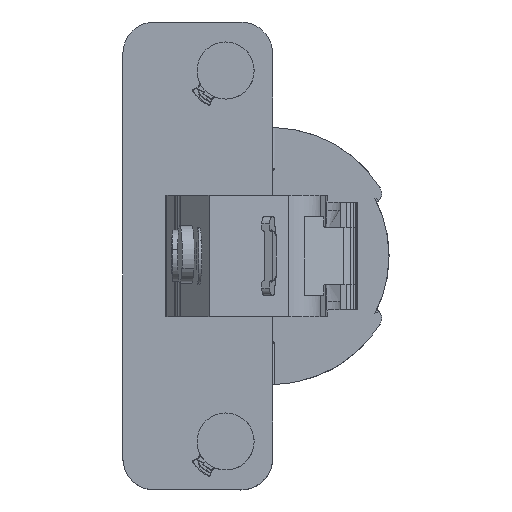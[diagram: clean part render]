
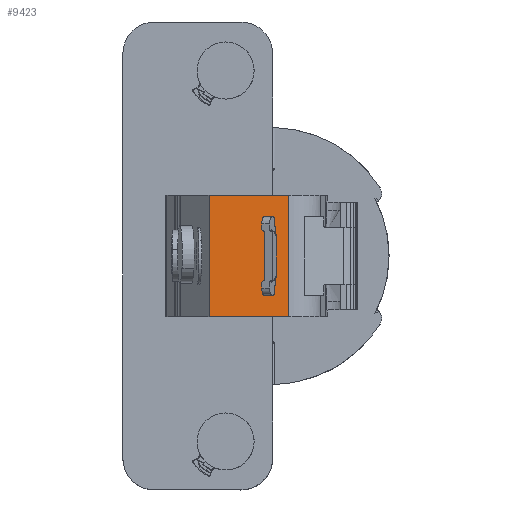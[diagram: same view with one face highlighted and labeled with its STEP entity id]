
A CAD part, left-side view. The second image highlights one B-rep face of the part: STEP entity #9423.
In plain terms, the highlighted planar face has unit normal (-0.997, -0.081, 0).
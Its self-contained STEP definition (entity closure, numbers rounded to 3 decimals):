
#125 = CARTESIAN_POINT ( 'NONE',  ( -78.675, 19.547, 5.067 ) ) ;
#426 = CARTESIAN_POINT ( 'NONE',  ( -78.577, 18.348, -3.133 ) ) ;
#498 = DIRECTION ( 'NONE',  ( 0., 0., -1. ) ) ;
#721 = VERTEX_POINT ( 'NONE', #7684 ) ;
#827 = VECTOR ( 'NONE', #7152, 1000. ) ;
#966 = VERTEX_POINT ( 'NONE', #1645 ) ;
#1428 = CARTESIAN_POINT ( 'NONE',  ( -78.423, 16.443, -23.533 ) ) ;
#1518 = EDGE_CURVE ( 'NONE', #721, #10312, #3726, .T. ) ;
#1626 = DIRECTION ( 'NONE',  ( -0.081, 0.997, 0. ) ) ;
#1645 = CARTESIAN_POINT ( 'NONE',  ( -78.577, 18.348, 5.067 ) ) ;
#1786 = VECTOR ( 'NONE', #3502, 1000. ) ;
#1873 = LINE ( 'NONE', #11148, #3882 ) ;
#1901 = DIRECTION ( 'NONE',  ( 0., 0., 1. ) ) ;
#2063 = LINE ( 'NONE', #5722, #7176 ) ;
#2470 = LINE ( 'NONE', #7060, #5455 ) ;
#2670 = CARTESIAN_POINT ( 'NONE',  ( -79.33, 27.627, 9.467 ) ) ;
#3185 = ORIENTED_EDGE ( 'NONE', *, *, #8166, .T. ) ;
#3254 = DIRECTION ( 'NONE',  ( 0.997, 0.081, 0. ) ) ;
#3340 = AXIS2_PLACEMENT_3D ( 'NONE', #3369, #3254, #498 ) ;
#3369 = CARTESIAN_POINT ( 'NONE',  ( -78.36, 15.673, -19.533 ) ) ;
#3502 = DIRECTION ( 'NONE',  ( 0., 0., 1. ) ) ;
#3652 = ORIENTED_EDGE ( 'NONE', *, *, #1518, .T. ) ;
#3726 = LINE ( 'NONE', #5646, #5179 ) ;
#3882 = VECTOR ( 'NONE', #9346, 1000. ) ;
#4446 = EDGE_LOOP ( 'NONE', ( #7907, #3185, #6926, #11516 ) ) ;
#4481 = ORIENTED_EDGE ( 'NONE', *, *, #4737, .F. ) ;
#4737 = EDGE_CURVE ( 'NONE', #721, #7517, #6171, .T. ) ;
#4860 = CARTESIAN_POINT ( 'NONE',  ( -79.33, 27.627, -7.533 ) ) ;
#4862 = EDGE_CURVE ( 'NONE', #5414, #966, #10159, .T. ) ;
#5179 = VECTOR ( 'NONE', #6628, 1000. ) ;
#5235 = FACE_OUTER_BOUND ( 'NONE', #7545, .T. ) ;
#5309 = LINE ( 'NONE', #2670, #1786 ) ;
#5363 = EDGE_CURVE ( 'NONE', #5764, #9200, #1873, .T. ) ;
#5414 = VERTEX_POINT ( 'NONE', #426 ) ;
#5455 = VECTOR ( 'NONE', #1626, 1000. ) ;
#5510 = CARTESIAN_POINT ( 'NONE',  ( -78.577, 18.348, -85.824 ) ) ;
#5585 = ORIENTED_EDGE ( 'NONE', *, *, #8568, .F. ) ;
#5646 = CARTESIAN_POINT ( 'NONE',  ( -78.36, 15.673, 9.467 ) ) ;
#5722 = CARTESIAN_POINT ( 'NONE',  ( -79.209, 26.131, 5.067 ) ) ;
#5764 = VERTEX_POINT ( 'NONE', #125 ) ;
#5928 = CARTESIAN_POINT ( 'NONE',  ( -78.423, 16.443, -7.533 ) ) ;
#6171 = LINE ( 'NONE', #1428, #827 ) ;
#6207 = VECTOR ( 'NONE', #9510, 1000. ) ;
#6418 = CARTESIAN_POINT ( 'NONE',  ( -79.33, 27.627, 9.467 ) ) ;
#6628 = DIRECTION ( 'NONE',  ( -0.081, 0.997, 0. ) ) ;
#6926 = ORIENTED_EDGE ( 'NONE', *, *, #4862, .F. ) ;
#7060 = CARTESIAN_POINT ( 'NONE',  ( -79.209, 26.131, -3.133 ) ) ;
#7152 = DIRECTION ( 'NONE',  ( 0., 0., -1. ) ) ;
#7176 = VECTOR ( 'NONE', #9409, 1000. ) ;
#7517 = VERTEX_POINT ( 'NONE', #5928 ) ;
#7525 = VERTEX_POINT ( 'NONE', #4860 ) ;
#7545 = EDGE_LOOP ( 'NONE', ( #11252, #5585, #4481, #3652 ) ) ;
#7684 = CARTESIAN_POINT ( 'NONE',  ( -78.423, 16.443, 9.467 ) ) ;
#7907 = ORIENTED_EDGE ( 'NONE', *, *, #5363, .F. ) ;
#7982 = EDGE_CURVE ( 'NONE', #7525, #10312, #5309, .T. ) ;
#8166 = EDGE_CURVE ( 'NONE', #5764, #966, #2063, .T. ) ;
#8437 = CARTESIAN_POINT ( 'NONE',  ( -79.413, 28.65, -7.533 ) ) ;
#8568 = EDGE_CURVE ( 'NONE', #7517, #7525, #11331, .T. ) ;
#9060 = VECTOR ( 'NONE', #1901, 1000. ) ;
#9110 = CARTESIAN_POINT ( 'NONE',  ( -78.675, 19.547, -3.133 ) ) ;
#9200 = VERTEX_POINT ( 'NONE', #9110 ) ;
#9346 = DIRECTION ( 'NONE',  ( 0., 0., -1. ) ) ;
#9388 = EDGE_CURVE ( 'NONE', #5414, #9200, #2470, .T. ) ;
#9409 = DIRECTION ( 'NONE',  ( 0.081, -0.997, 0. ) ) ;
#9423 = ADVANCED_FACE ( 'NONE', ( #10547, #5235 ), #11576, .F. ) ;
#9510 = DIRECTION ( 'NONE',  ( -0.081, 0.997, 0. ) ) ;
#10159 = LINE ( 'NONE', #5510, #9060 ) ;
#10312 = VERTEX_POINT ( 'NONE', #6418 ) ;
#10547 = FACE_BOUND ( 'NONE', #4446, .T. ) ;
#11148 = CARTESIAN_POINT ( 'NONE',  ( -78.675, 19.547, -85.824 ) ) ;
#11252 = ORIENTED_EDGE ( 'NONE', *, *, #7982, .F. ) ;
#11331 = LINE ( 'NONE', #8437, #6207 ) ;
#11516 = ORIENTED_EDGE ( 'NONE', *, *, #9388, .T. ) ;
#11576 = PLANE ( 'NONE',  #3340 ) ;
